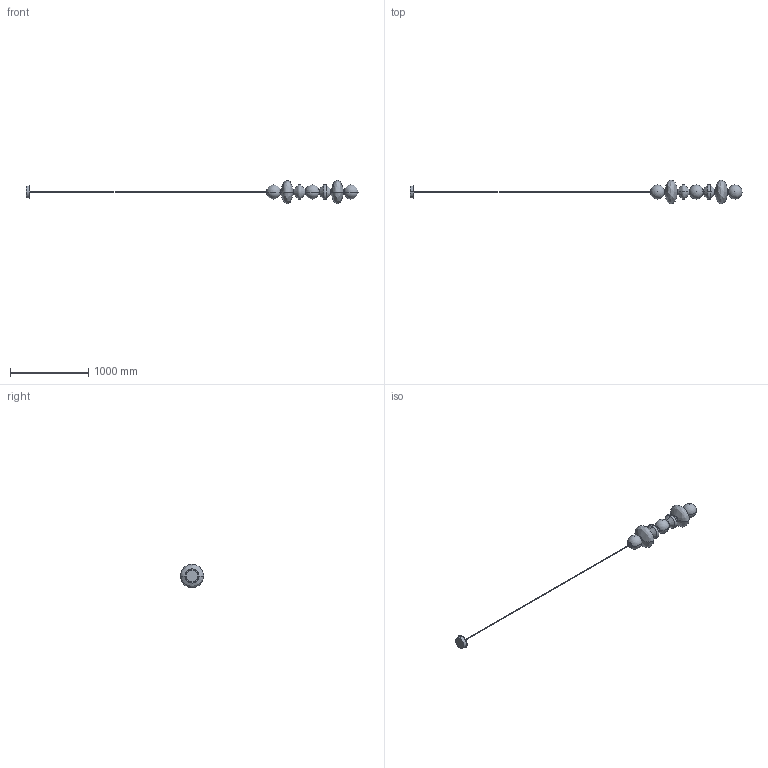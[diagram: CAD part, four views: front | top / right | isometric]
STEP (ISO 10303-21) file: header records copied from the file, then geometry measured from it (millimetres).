
FILE_DESCRIPTION (( 'STEP AP214' ), '1' );
FILE_NAME ('MAPI_CU1235-V.STEP', '2026-06-08T15:05:23', ( '' ), ( '' ), 'SwSTEP 2.0', 'SolidWorks 2023', '' );
FILE_SCHEMA (( 'AUTOMOTIVE_DESIGN' ));
Length unit declared in the file: inch
Products named in the file (1): MAPI_CU1235-V
Bounding box: 4241.14 x 300 x 300 mm (x, y, z)
Volume: 30017767.1 mm3; surface area: 1021198.1 mm2
Topology: 9 solids, 9 shells, 76 faces, 159 edges, 100 vertices
Faces by surface type: cylinder 32, plane 22, cone 8, sphere 6, torus 4, bspline 4
Entity records: 2107 total; most frequent: DIRECTION 386, CARTESIAN_POINT 384, ORIENTED_EDGE 288, AXIS2_PLACEMENT_3D 173, EDGE_CURVE 144, CIRCLE 100, VERTEX_POINT 91, EDGE_LOOP 81
